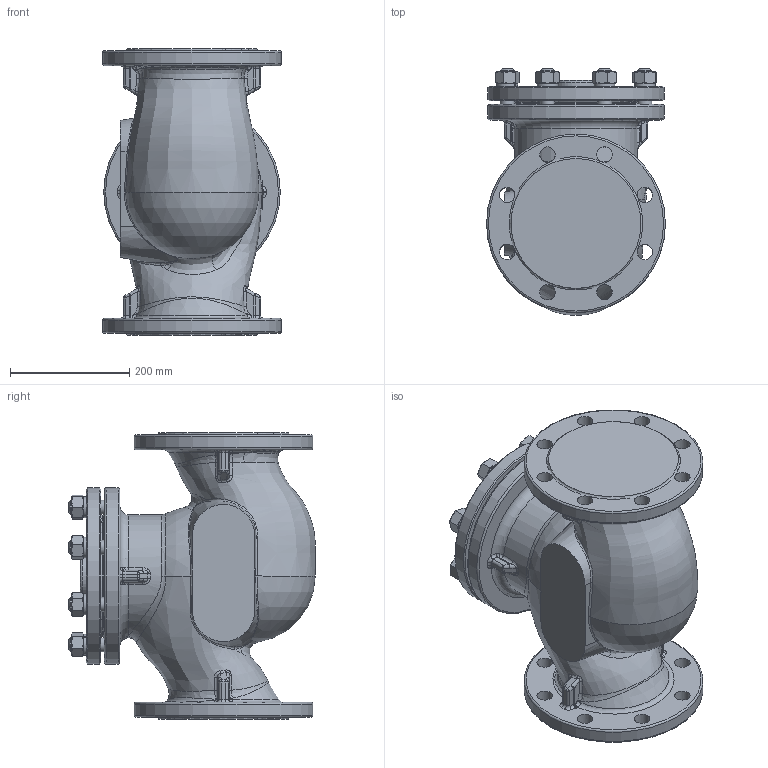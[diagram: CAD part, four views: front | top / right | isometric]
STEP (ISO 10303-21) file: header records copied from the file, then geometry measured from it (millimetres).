
FILE_DESCRIPTION(/* description */ (''),/* implementation_level */ '2;1');
FILE_NAME(/* name */ 'sestZV226_DN150.stp',/* time_stamp */ '2012-03-06T11:25:41+01:00',/* author */ (''),/* organization */ ('LDM'),/* preprocessor_version */ 'ST-DEVELOPER v11',/* originating_system */ 'SIEMENS PLM Software NX 7.0',/* authorisation */ '');
FILE_SCHEMA (('CONFIG_CONTROL_DESIGN'));
Products named in the file (1): adam9E31edr2
Bounding box: 300 x 414 x 480 mm (x, y, z)
Volume: 25638948.1 mm3; surface area: 891428.9 mm2
Topology: 1 solids, 1 shells, 601 faces, 1448 edges, 843 vertices
Faces by surface type: plane 154, cylinder 151, cone 112, bspline 99, torus 59, sphere 26
Full cylindrical faces by diameter (mm): 24 x24, 26 x16, 75 x1, 192 x1, 222 x1, 296 x2, 300 x2
Entity records: 40104 total; most frequent: CARTESIAN_POINT 27460, ORIENTED_EDGE 2648, DIRECTION 2495, EDGE_CURVE 1324, AXIS2_PLACEMENT_3D 1108, VERTEX_POINT 797, EDGE_LOOP 737, ADVANCED_FACE 601
